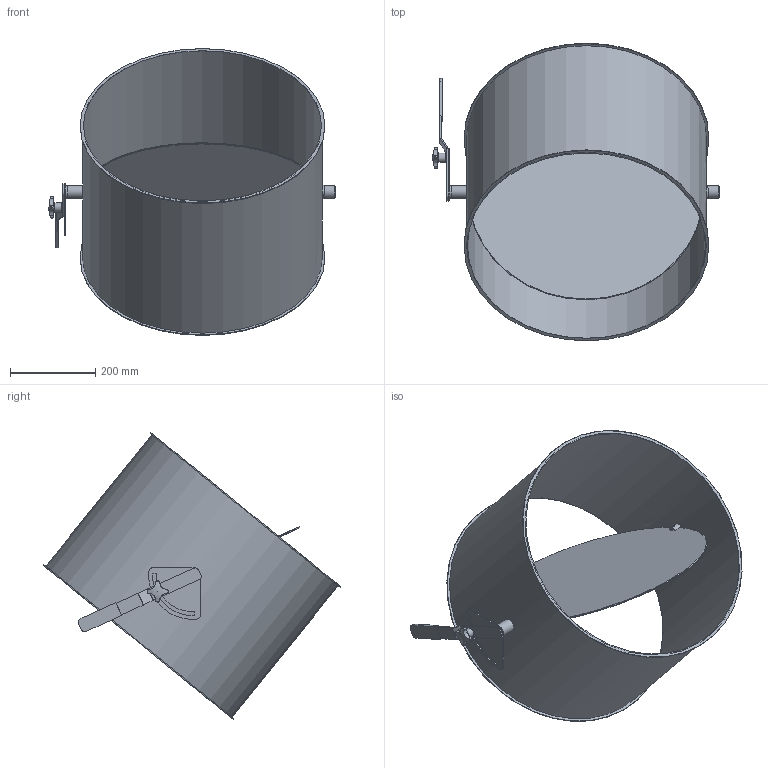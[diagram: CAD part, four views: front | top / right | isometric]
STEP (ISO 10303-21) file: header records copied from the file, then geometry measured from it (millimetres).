
FILE_DESCRIPTION((''),'2;1');
FILE_NAME('U:\Wolfgang\Marcel-3D\fertig\Kapitel 8\5621075.stp','2012-01-13T11:23:17',('iwienholt'),(''),'Autodesk Inventor 2010','Autodesk Inventor 2010','');
FILE_SCHEMA(('AUTOMOTIVE_DESIGN { 1 0 10303 214 1 1 1 1 }'));
Length unit declared in the file: millimetre
Products named in the file (7): 5621075; Bolzen D20; ganter_din_6335-ku-50-m10-k; Griff D20; Scheibe560; Umstellsegment D20; 5621075-1
Assembly tree (6 placements, depth 2):
  5621075
    Bolzen D20
    ganter_din_6335-ku-50-m10-k
    Griff D20
    Scheibe560
    Umstellsegment D20
    5621075-1
Bounding box: 672 x 697.75 x 672.3 mm (x, y, z)
Volume: 2333202.2 mm3; surface area: 2012053.1 mm2
Topology: 6 solids, 6 shells, 119 faces, 304 edges, 206 vertices
Faces by surface type: plane 51, cylinder 46, torus 9, bspline 7, cone 5, sphere 1
Full cylindrical faces by diameter (mm): 6 x4, 8 x1, 9 x1, 10 x2, 16 x1, 20 x6, 22 x1, 30 x3, 554 x1, 558 x1, 562 x1, 574 x2
Entity records: 4467 total; most frequent: CARTESIAN_POINT 1602, DIRECTION 566, ORIENTED_EDGE 492, EDGE_CURVE 246, AXIS2_PLACEMENT_3D 240, EDGE_LOOP 188, VERTEX_POINT 186, FACE_OUTER_BOUND 119
